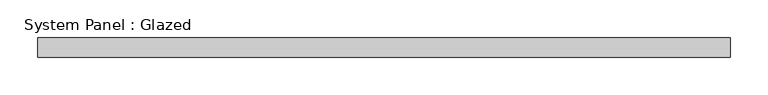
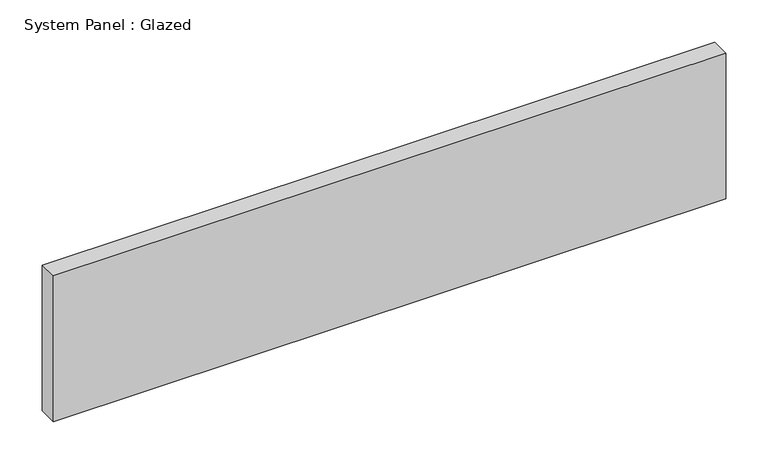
"""IFC4 building model written with IfcOpenShell, lengths in millimetres: plate geometry, System Panel : Glazed."""

from ifc_helpers import new_model, si_unit, origin, origin_with_axes, place, context, project, spatial, polyline, outline, extrude, source, transform, mapped, element, save


def system_panel_glazed_72fe8651(model_context):
    return source(origin(), model_context, "Body", "SweptSolid", [
        extrude(outline(polyline([(457.2, 19.05), (-457.2, 19.05), (-457.2, 44.45), (457.2, 44.45), (457.2, 19.05)])), origin_with_axes(), (0.0, 0.0, 1.0), 209.55),
    ])


if __name__ == "__main__":
    model = new_model("IFC4")
    model_context = context("Model", 3, world=origin())
    ifc_project = project(units=[si_unit("LENGTHUNIT", "METRE", prefix="MILLI")], contexts=[model_context])
    site = spatial("IfcSite", under=ifc_project)
    building = spatial("IfcBuilding", under=site)
    placement = place(None, origin())
    system_panel_glazed_shape = system_panel_glazed_72fe8651(model_context)
    element("IfcPlate", 1, ObjectType="System Panel : Glazed", at=placement, inside=building, context=model_context, shape_type="MappedRepresentation", body=[
        mapped(system_panel_glazed_shape, transform((0.0, 0.0, 0.0), x_axis=(1.0, 0.0, 0.0), y_axis=(0.0, 1.0, 0.0), z_axis=(0.0, 0.0, 1.0))),
    ])
    save(model, "model.ifc")
